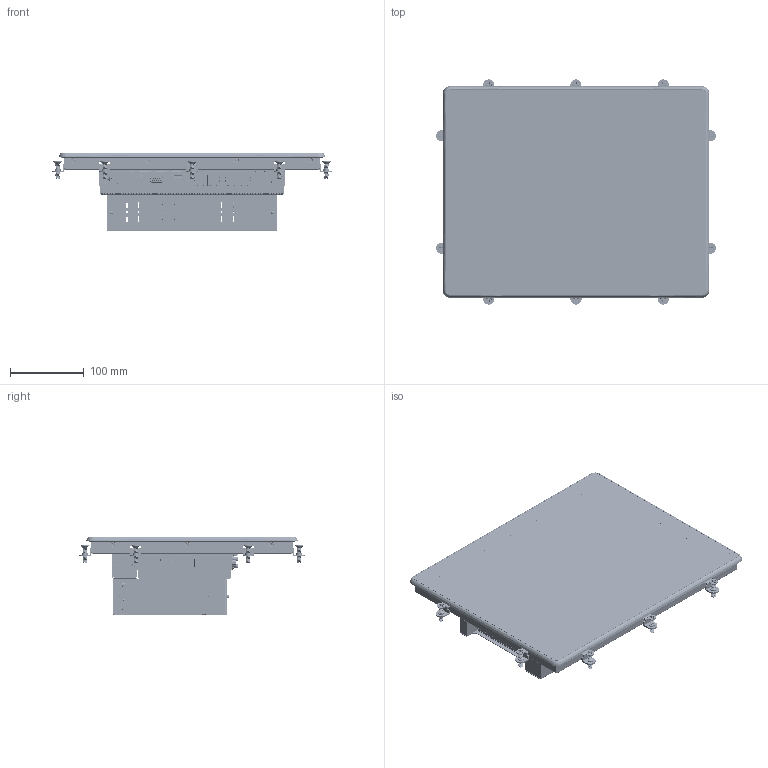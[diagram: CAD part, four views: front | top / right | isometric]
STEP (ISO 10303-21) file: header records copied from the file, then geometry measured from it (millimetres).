
FILE_DESCRIPTION((''),'2;1');
FILE_NAME('NP2A-150-Z','2026-06-02T13:49:10',('gijyu181'),(''),'CREO PARAMETRIC BY PTC INC, 2018050','CREO PARAMETRIC BY PTC INC, 2018050','');
FILE_SCHEMA(('CONFIG_CONTROL_DESIGN','SHAPE_APPEARANCE_LAYERS_GROUPS'));
Products named in the file (1): NP2A-150-Z
Bounding box: 378.6 x 304.6 x 106.1 mm (x, y, z)
Volume: 1174842.6 mm3; surface area: 1075321.9 mm2
Topology: 40 solids, 117 shells, 34656 faces, 100664 edges, 66351 vertices
Faces by surface type: plane 22922, cylinder 8557, extrusion 1557, cone 539, bspline 520, torus 425, sphere 120, revolution 16
Entity records: 1419864 total; most frequent: CARTESIAN_POINT 315626, ORIENTED_EDGE 200211, DIRECTION 178338, EDGE_CURVE 100588, VECTOR 77798, LINE 76241, VERTEX_POINT 66352, AXIS2_PLACEMENT_3D 50262
